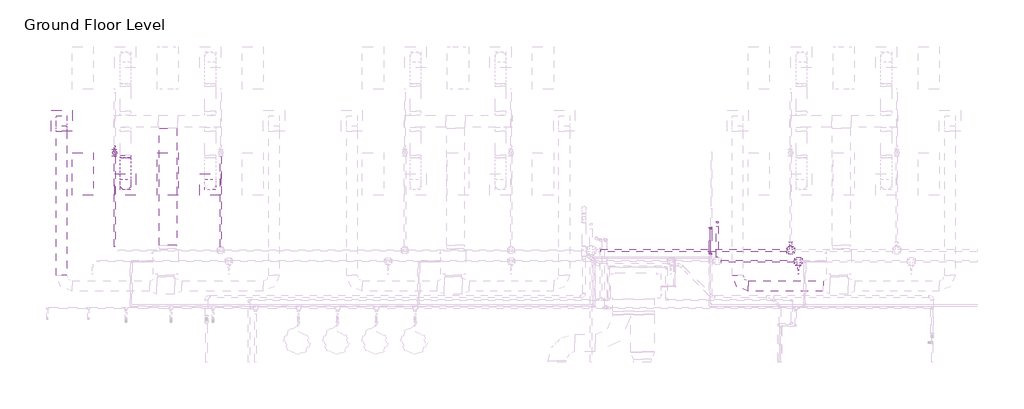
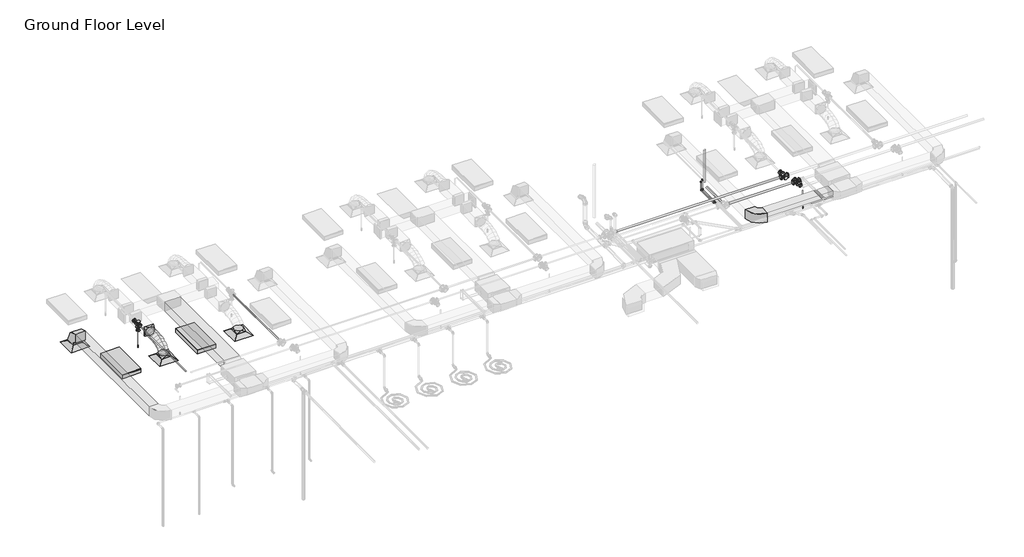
# One storey, part 54 of 74: 14 pipe fittings, 14 pipe segments, 5 duct fittings, 5 duct segments, 3 air terminals, 2 fire suppression terminals, 2 light fixtures.
"""IFC4 building model written with IfcOpenShell, lengths in millimetres."""

from ifc_helpers import new_model, si_unit, point, frame, frame_2d, origin, place, context, project, spatial, polyline, circle_curve, ellipse_curve, trimmed, segment, composite_curve, outline, extrude, transform, mapped, element, save
from ifc_brep_helpers import plane_surface, cylinder_surface, advanced_brep
from components import m_return_diffuser_600_x_600_face_300_x_300_connection_ff221211, m_rectangular_elbow_radius_1_w_618da153, m_rectangular_to_round_transition_angle_45_degree_641efff0, m_sprinkler_dry_pendent_hosted_15_mm_dry_pendent_9bda8e11, m_sprinkler_pendent_15_mm_pendent_06fcbd8e, m_troffer_light_parabolic_rectangular1_0600x1200mm_4_lamp_86473d4a, m_elbow_generic_standard_738589b0, m_elbow_generic_standard_463efa77, m_reducer_flanged_cs_class_150_standard_d42b2106, m_reducer_flanged_cs_class_150_standard_a7631c35, m_reducer_flanged_cs_class_150_standard_55262df0, m_tee_round_base_flanged_cs_class_150_standard_dd767e04, m_tee_round_base_flanged_cs_class_150_standard_7e5987a1

model = new_model("IFC4")

# Units and contexts
model_context = context("Model", 3, world=origin())
ifc_project = project(units=[si_unit("LENGTHUNIT", "METRE", prefix="MILLI")], contexts=[model_context])

# Site, building, storey
site = spatial("IfcSite", under=ifc_project)
building = spatial("IfcBuilding", under=site)
storey = spatial("IfcBuildingStorey", under=building, Name="Ground Floor Level", Elevation=900.0)

# Air terminals
placement = place(None, origin())
m_return_diffuser_600_x_600_face_300_x_300_connection_shape = m_return_diffuser_600_x_600_face_300_x_300_connection_ff221211(model_context)
element("IfcAirTerminal", 1, ObjectType="M_Return Diffuser : 600 x 600 Face 300 x 300 Connection", at=placement, inside=storey, context=model_context, shape_type="MappedRepresentation", body=[
    mapped(m_return_diffuser_600_x_600_face_300_x_300_connection_shape, transform((-20937.2327605, 18735.2153534, 3650.0), x_axis=(1.0, 0.0, 0.0), y_axis=(0.0, 1.0, 0.0), z_axis=(0.0, 0.0, 1.0))),
])
element("IfcAirTerminal", 2, ObjectType="M_Supply Diffuser : 600 x 600 Face 300 x 300 Connection", at=placement, inside=storey, context=model_context, shape_type="MappedRepresentation", body=[
    mapped(m_return_diffuser_600_x_600_face_300_x_300_connection_shape, transform((-19137.2327605, 16935.2153534, 3650.0), x_axis=(1.0, 0.0, 0.0), y_axis=(0.0, 1.0, 0.0), z_axis=(0.0, 0.0, 1.0))),
])
element("IfcAirTerminal", 3, ObjectType="M_Supply Diffuser : 600 x 600 Face 300 x 300 Connection", at=placement, inside=storey, context=model_context, shape_type="MappedRepresentation", body=[
    mapped(m_return_diffuser_600_x_600_face_300_x_300_connection_shape, transform((-16737.2327605, 16935.2153534, 3650.0), x_axis=(1.0, 0.0, 0.0), y_axis=(0.0, 1.0, 0.0), z_axis=(0.0, 0.0, 1.0))),
])

# Duct fittings
m_rectangular_elbow_radius_1_w_shape = m_rectangular_elbow_radius_1_w_618da153(model_context)
element("IfcDuctFitting", 4, ObjectType="M_Rectangular Elbow - Radius : 1 W", at=placement, inside=storey, context=model_context, shape_type="MappedRepresentation", body=[
    mapped(m_rectangular_elbow_radius_1_w_shape, transform((-20937.2327605, 18735.2153534, 4075.2881511), x_axis=(0.0, 0.0, 1.0), y_axis=(0.0, -1.0, 0.0), z_axis=(1.0, 0.0, 0.0))),
])
element("IfcDuctFitting", 5, ObjectType="M_Rectangular Elbow - Radius : 1 W", at=placement, inside=storey, context=model_context, shape_type="MappedRepresentation", body=[
    mapped(m_rectangular_elbow_radius_1_w_shape, transform((-1837.2327605, 14069.8153534, 4075.2872564), x_axis=(0.0, -1.0, 0.0), y_axis=(1.0, 0.0, 0.0), z_axis=(0.0, 0.0, 1.0))),
])
m_rectangular_to_round_transition_angle_45_degree_shape = m_rectangular_to_round_transition_angle_45_degree_641efff0(model_context)
element("IfcDuctFitting", 6, ObjectType="M_Rectangular to Round Transition - Angle : 45 Degree", at=placement, inside=storey, context=model_context, shape_type="MappedRepresentation", body=[
    mapped(m_rectangular_to_round_transition_angle_45_degree_shape, transform((-16737.2327605, 16935.2153534, 3751.6), x_axis=(0.0, 0.0, 1.0), y_axis=(-1.0, 0.0, 0.0), z_axis=(0.0, -1.0, 0.0))),
])
element("IfcDuctFitting", 7, ObjectType="M_Rectangular to Round Transition - Angle : 45 Degree", at=placement, inside=storey, context=model_context, shape_type="MappedRepresentation", body=[
    mapped(m_rectangular_to_round_transition_angle_45_degree_shape, transform((-19137.2327605, 16935.2153534, 3751.6), x_axis=(0.0, 0.0, 1.0), y_axis=(-1.0, 0.0, 0.0), z_axis=(0.0, -1.0, 0.0))),
])
element("IfcDuctFitting", 8, ObjectType="M_Rectangular to Round Transition - Angle : 45 Degree", at=placement, inside=storey, context=model_context, shape_type="MappedRepresentation", body=[
    mapped(m_rectangular_to_round_transition_angle_45_degree_shape, transform((-19137.2327605, 17762.5518775, 4099.9994072), x_axis=(0.0, -1.0, 0.0), y_axis=(1.0, 0.0, 0.0), z_axis=(0.0, 0.0, 1.0))),
])

# Duct segments
element("IfcDuctSegment", 9, ObjectType="Flex - Round", at=placement, inside=storey, context=model_context, shape_type="AdvancedBrep", body=[
    advanced_brep(
    [(-18987.2327605, 16935.2153534, 3826.6), (-19137.2327605, 16785.2153534, 3826.6), (-19287.2327605, 16935.2153534, 3826.6), (-19137.2327605, 17085.2153534, 3826.6), (-18987.2327605, 16935.2153534, 3857.9377363), (-19137.2327605, 16785.2153534, 3883.580989), (-19287.2327605, 16935.2153534, 3857.9377363), (-19137.2327605, 17085.2153534, 3832.2944836), (-18987.2327605, 16952.2313024, 3906.2505836), (-19137.2327605, 16818.4933608, 3978.0661859), (-19287.2327605, 16952.2313024, 3906.2505836), (-19137.2327605, 17085.969244, 3834.4349814), (-18987.2327605, 16999.4152275, 3968.711286), (-19137.2327605, 16895.2094297, 4079.6206779), (-19287.2327605, 16999.4152275, 3968.711286), (-19137.2327605, 17103.6210253, 3857.8018941), (-18987.2327605, 17070.9712459, 4016.0699627), (-19137.2327605, 17002.0373501, 4150.3237308), (-19287.2327605, 17070.9712459, 4016.0699627), (-19137.2327605, 17139.9051416, 3881.8161947), (-18987.2327605, 17161.1034747, 4050.4144697), (-19137.2327605, 17117.5428863, 4194.3366298), (-19287.2327605, 17161.1034747, 4050.4144697), (-19137.2327605, 17204.6640631, 3906.4923095), (-18987.2327605, 17264.0160312, 4073.8326625), (-19137.2327605, 17237.4552729, 4221.6232067), (-19287.2327605, 17264.0160312, 4073.8326625), (-19137.2327605, 17290.5767896, 3926.0421182), (-18987.2327605, 17373.9130326, 4088.4123969), (-19137.2327605, 17358.7622742, 4237.7166746), (-19287.2327605, 17373.9130326, 4088.4123969), (-19137.2327605, 17389.0637909, 3939.1081192), (-18987.2327605, 17484.9985959, 4096.2415287), (-19137.2327605, 17477.4933798, 4246.0846519), (-19287.2327605, 17484.9985959, 4096.2415287), (-19137.2327605, 17492.5038121, 3946.3984054), (-18987.2327605, 17591.4768385, 4099.4079135), (-19137.2327605, 17588.7854112, 4249.3941863), (-19287.2327605, 17591.4768385, 4099.4079135), (-19137.2327605, 17594.1682658, 3949.4216408), (-18987.2327605, 17687.5518775, 4099.9994072), (-19137.2327605, 17688.475347, 3950.0022499), (-19287.2327605, 17687.5518775, 4099.9994072), (-19137.2327605, 17686.6284079, 4249.9965645)],
    [
        (0, 1, circle_curve(frame((-19137.2327605, 16935.2153534, 3826.6), z_axis=(0.0, 0.0, -1.0), x_axis=(1.0, 0.0, 0.0)), 150.0)),
        (1, 2, circle_curve(frame((-19137.2327605, 16935.2153534, 3826.6), z_axis=(0.0, 0.0, -1.0), x_axis=(1.0, 0.0, 0.0)), 150.0)),
        (2, 3, circle_curve(frame((-19137.2327605, 16935.2153534, 3826.6), z_axis=(0.0, 0.0, -1.0), x_axis=(1.0, 0.0, 0.0)), 150.0)),
        (3, 0, circle_curve(frame((-19137.2327605, 16935.2153534, 3826.6), z_axis=(0.0, 0.0, -1.0), x_axis=(1.0, 0.0, 0.0)), 150.0)),
        (0, 4),
        (4, 5, ellipse_curve(frame((-19137.2327605, 16935.2153534, 3857.9377363), z_axis=(0.0, -0.1685103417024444, -0.9856998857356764), x_axis=(0.0, 0.9856998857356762, -0.1685103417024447)), 152.1761361, 150.0)),
        (5, 1),
        (5, 6, ellipse_curve(frame((-19137.2327605, 16935.2153534, 3857.9377363), z_axis=(0.0, -0.1685103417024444, -0.9856998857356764), x_axis=(0.0, 0.9856998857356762, -0.1685103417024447)), 152.1761361, 150.0)),
        (6, 2),
        (6, 7, ellipse_curve(frame((-19137.2327605, 16935.2153534, 3857.9377363), z_axis=(0.0, -0.1685103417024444, -0.9856998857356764), x_axis=(0.0, 0.9856998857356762, -0.1685103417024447)), 152.1761361, 150.0)),
        (7, 3),
        (7, 4, ellipse_curve(frame((-19137.2327605, 16935.2153534, 3857.9377363), z_axis=(0.0, -0.1685103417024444, -0.9856998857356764), x_axis=(0.0, 0.9856998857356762, -0.1685103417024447)), 152.1761361, 150.0)),
        (4, 8),
        (8, 9, ellipse_curve(frame((-19137.2327605, 16952.2313024, 3906.2505836), z_axis=(0.0, -0.4730927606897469, -0.8810126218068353), x_axis=(0.0, 0.881012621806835, -0.4730927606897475)), 151.8002561, 150.0)),
        (9, 5),
        (9, 10, ellipse_curve(frame((-19137.2327605, 16952.2313024, 3906.2505836), z_axis=(0.0, -0.4730927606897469, -0.8810126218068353), x_axis=(0.0, 0.881012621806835, -0.4730927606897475)), 151.8002561, 150.0)),
        (10, 6),
        (10, 11, ellipse_curve(frame((-19137.2327605, 16952.2313024, 3906.2505836), z_axis=(0.0, -0.4730927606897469, -0.8810126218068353), x_axis=(0.0, 0.881012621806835, -0.4730927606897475)), 151.8002561, 150.0)),
        (11, 7),
        (11, 8, ellipse_curve(frame((-19137.2327605, 16952.2313024, 3906.2505836), z_axis=(0.0, -0.4730927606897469, -0.8810126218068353), x_axis=(0.0, 0.881012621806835, -0.4730927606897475)), 151.8002561, 150.0)),
        (8, 12),
        (12, 13, ellipse_curve(frame((-19137.2327605, 16999.4152275, 3968.711286), z_axis=(0.0, -0.7287884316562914, -0.6847389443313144), x_axis=(0.0, 0.6847389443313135, -0.7287884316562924)), 152.1832498, 150.0)),
        (13, 9),
        (13, 14, ellipse_curve(frame((-19137.2327605, 16999.4152275, 3968.711286), z_axis=(0.0, -0.7287884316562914, -0.6847389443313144), x_axis=(0.0, 0.6847389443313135, -0.7287884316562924)), 152.1832498, 150.0)),
        (14, 10),
        (14, 15, ellipse_curve(frame((-19137.2327605, 16999.4152275, 3968.711286), z_axis=(0.0, -0.7287884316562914, -0.6847389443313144), x_axis=(0.0, 0.6847389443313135, -0.7287884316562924)), 152.1832498, 150.0)),
        (15, 11),
        (15, 12, ellipse_curve(frame((-19137.2327605, 16999.4152275, 3968.711286), z_axis=(0.0, -0.7287884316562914, -0.6847389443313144), x_axis=(0.0, 0.6847389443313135, -0.7287884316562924)), 152.1832498, 150.0)),
        (12, 16),
        (16, 17, ellipse_curve(frame((-19137.2327605, 17070.9712459, 4016.0699627), z_axis=(0.0, -0.8895864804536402, -0.45676678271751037), x_axis=(0.0, 0.45676678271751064, -0.88958648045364)), 150.9170508, 150.0)),
        (17, 13),
        (17, 18, ellipse_curve(frame((-19137.2327605, 17070.9712459, 4016.0699627), z_axis=(0.0, -0.8895864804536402, -0.45676678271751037), x_axis=(0.0, 0.45676678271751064, -0.88958648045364)), 150.9170508, 150.0)),
        (18, 14),
        (18, 19, ellipse_curve(frame((-19137.2327605, 17070.9712459, 4016.0699627), z_axis=(0.0, -0.8895864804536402, -0.45676678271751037), x_axis=(0.0, 0.45676678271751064, -0.88958648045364)), 150.9170508, 150.0)),
        (19, 15),
        (19, 16, ellipse_curve(frame((-19137.2327605, 17070.9712459, 4016.0699627), z_axis=(0.0, -0.8895864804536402, -0.45676678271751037), x_axis=(0.0, 0.45676678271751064, -0.88958648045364)), 150.9170508, 150.0)),
        (16, 20),
        (20, 21, ellipse_curve(frame((-19137.2327605, 17161.1034747, 4050.4144697), z_axis=(0.0, -0.9571206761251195, -0.2896895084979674), x_axis=(0.0, 0.28968950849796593, -0.9571206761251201)), 150.3699207, 150.0)),
        (21, 17),
        (21, 22, ellipse_curve(frame((-19137.2327605, 17161.1034747, 4050.4144697), z_axis=(0.0, -0.9571206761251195, -0.2896895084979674), x_axis=(0.0, 0.28968950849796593, -0.9571206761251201)), 150.3699207, 150.0)),
        (22, 18),
        (22, 23, ellipse_curve(frame((-19137.2327605, 17161.1034747, 4050.4144697), z_axis=(0.0, -0.9571206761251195, -0.2896895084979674), x_axis=(0.0, 0.28968950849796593, -0.9571206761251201)), 150.3699207, 150.0)),
        (23, 19),
        (23, 20, ellipse_curve(frame((-19137.2327605, 17161.1034747, 4050.4144697), z_axis=(0.0, -0.9571206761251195, -0.2896895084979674), x_axis=(0.0, 0.28968950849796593, -0.9571206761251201)), 150.3699207, 150.0)),
        (20, 24),
        (24, 25, ellipse_curve(frame((-19137.2327605, 17264.0160312, 4073.8326625), z_axis=(0.0, -0.984231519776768, -0.17688503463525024), x_axis=(0.0, 0.17688503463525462, -0.984231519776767)), 150.1583126, 150.0)),
        (25, 21),
        (25, 26, ellipse_curve(frame((-19137.2327605, 17264.0160312, 4073.8326625), z_axis=(0.0, -0.984231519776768, -0.17688503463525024), x_axis=(0.0, 0.17688503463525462, -0.984231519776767)), 150.1583126, 150.0)),
        (26, 22),
        (26, 27, ellipse_curve(frame((-19137.2327605, 17264.0160312, 4073.8326625), z_axis=(0.0, -0.984231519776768, -0.17688503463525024), x_axis=(0.0, 0.17688503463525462, -0.984231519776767)), 150.1583126, 150.0)),
        (27, 23),
        (27, 24, ellipse_curve(frame((-19137.2327605, 17264.0160312, 4073.8326625), z_axis=(0.0, -0.984231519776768, -0.17688503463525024), x_axis=(0.0, 0.17688503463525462, -0.984231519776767)), 150.1583126, 150.0)),
        (24, 28),
        (28, 29, ellipse_curve(frame((-19137.2327605, 17373.9130326, 4088.4123969), z_axis=(0.0, -0.9948907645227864, -0.1009572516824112), x_axis=(0.0, 0.10095725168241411, -0.9948907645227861)), 150.0710259, 150.0)),
        (29, 25),
        (29, 30, ellipse_curve(frame((-19137.2327605, 17373.9130326, 4088.4123969), z_axis=(0.0, -0.9948907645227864, -0.1009572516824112), x_axis=(0.0, 0.10095725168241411, -0.9948907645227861)), 150.0710259, 150.0)),
        (30, 26),
        (30, 31, ellipse_curve(frame((-19137.2327605, 17373.9130326, 4088.4123969), z_axis=(0.0, -0.9948907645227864, -0.1009572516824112), x_axis=(0.0, 0.10095725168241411, -0.9948907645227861)), 150.0710259, 150.0)),
        (31, 27),
        (31, 28, ellipse_curve(frame((-19137.2327605, 17373.9130326, 4088.4123969), z_axis=(0.0, -0.9948907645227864, -0.1009572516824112), x_axis=(0.0, 0.10095725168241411, -0.9948907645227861)), 150.0710259, 150.0)),
        (28, 32),
        (32, 33, ellipse_curve(frame((-19137.2327605, 17484.9985959, 4096.2415287), z_axis=(0.0, -0.9987479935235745, -0.05002444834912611), x_axis=(0.0, 0.050024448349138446, -0.9987479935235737)), 150.030963, 150.0)),
        (33, 29),
        (33, 34, ellipse_curve(frame((-19137.2327605, 17484.9985959, 4096.2415287), z_axis=(0.0, -0.9987479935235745, -0.05002444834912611), x_axis=(0.0, 0.050024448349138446, -0.9987479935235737)), 150.030963, 150.0)),
        (34, 30),
        (34, 35, ellipse_curve(frame((-19137.2327605, 17484.9985959, 4096.2415287), z_axis=(0.0, -0.9987479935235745, -0.05002444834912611), x_axis=(0.0, 0.050024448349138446, -0.9987479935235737)), 150.030963, 150.0)),
        (35, 31),
        (35, 32, ellipse_curve(frame((-19137.2327605, 17484.9985959, 4096.2415287), z_axis=(0.0, -0.9987479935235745, -0.05002444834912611), x_axis=(0.0, 0.050024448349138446, -0.9987479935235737)), 150.030963, 150.0)),
        (32, 36),
        (36, 37, ellipse_curve(frame((-19137.2327605, 17591.4768385, 4099.4079135), z_axis=(0.0, -0.9998390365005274, -0.017941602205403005), x_axis=(0.0, 0.017941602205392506, -0.9998390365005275)), 150.0104189, 150.0)),
        (37, 33),
        (37, 38, ellipse_curve(frame((-19137.2327605, 17591.4768385, 4099.4079135), z_axis=(0.0, -0.9998390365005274, -0.017941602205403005), x_axis=(0.0, 0.017941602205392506, -0.9998390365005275)), 150.0104189, 150.0)),
        (38, 34),
        (38, 39, ellipse_curve(frame((-19137.2327605, 17591.4768385, 4099.4079135), z_axis=(0.0, -0.9998390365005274, -0.017941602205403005), x_axis=(0.0, 0.017941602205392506, -0.9998390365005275)), 150.0104189, 150.0)),
        (39, 35),
        (39, 36, ellipse_curve(frame((-19137.2327605, 17591.4768385, 4099.4079135), z_axis=(0.0, -0.9998390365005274, -0.017941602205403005), x_axis=(0.0, 0.017941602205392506, -0.9998390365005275)), 150.0104189, 150.0)),
        (40, 41, circle_curve(frame((-19137.2327605, 17687.5518775, 4099.9994072), z_axis=(0.0, 0.9999810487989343, 0.006156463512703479), x_axis=(1.0, 0.0, 0.0)), 150.0)),
        (41, 42, circle_curve(frame((-19137.2327605, 17687.5518775, 4099.9994072), z_axis=(0.0, 0.9999810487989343, 0.006156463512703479), x_axis=(1.0, 0.0, 0.0)), 150.0)),
        (42, 43, circle_curve(frame((-19137.2327605, 17687.5518775, 4099.9994072), z_axis=(0.0, 0.9999810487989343, 0.006156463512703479), x_axis=(1.0, 0.0, 0.0)), 150.0)),
        (43, 40, circle_curve(frame((-19137.2327605, 17687.5518775, 4099.9994072), z_axis=(0.0, 0.9999810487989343, 0.006156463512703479), x_axis=(1.0, 0.0, 0.0)), 150.0)),
        (36, 40),
        (43, 37),
        (42, 38),
        (41, 39),
    ],
    [
        plane_surface(frame((-19137.2327605, 16785.2153534, 3826.6), z_axis=(0.0, 0.0, -1.0), x_axis=(1.0, 0.0, 0.0))),
        cylinder_surface(frame((-19137.2327605, 16935.2153534, 3826.6), z_axis=(0.0, 0.0, -1.0), x_axis=(1.0, 0.0, 0.0)), 150.0),
        cylinder_surface(frame((-19137.2327605, 16935.2153534, 3857.9377363), z_axis=(0.0, -0.33220124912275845, -0.9432085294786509), x_axis=(1.0, 0.0, 0.0)), 150.0),
        cylinder_surface(frame((-19137.2327605, 16952.2313024, 3906.2505836), z_axis=(0.0, -0.6027631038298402, -0.7979201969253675), x_axis=(1.0, 0.0, 0.0)), 150.0),
        cylinder_surface(frame((-19137.2327605, 16999.4152275, 3968.711286), z_axis=(0.0, -0.833903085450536, -0.5519109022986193), x_axis=(1.0, 0.0, 0.0)), 150.0),
        cylinder_surface(frame((-19137.2327605, 17070.9712459, 4016.0699627), z_axis=(0.0, -0.9344586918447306, -0.3560715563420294), x_axis=(1.0, 0.0, 0.0)), 150.0),
        cylinder_surface(frame((-19137.2327605, 17161.1034747, 4050.4144697), z_axis=(0.0, -0.9750734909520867, -0.22188214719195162), x_axis=(1.0, 0.0, 0.0)), 150.0),
        cylinder_surface(frame((-19137.2327605, 17264.0160312, 4073.8326625), z_axis=(0.0, -0.9913141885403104, -0.13151494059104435), x_axis=(1.0, 0.0, 0.0)), 150.0),
        cylinder_surface(frame((-19137.2327605, 17373.9130326, 4088.4123969), z_axis=(0.0, -0.9975256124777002, -0.07030400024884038), x_axis=(1.0, 0.0, 0.0)), 150.0),
        cylinder_surface(frame((-19137.2327605, 17484.9985959, 4096.2415287), z_axis=(0.0, -0.9995581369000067, -0.029724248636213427), x_axis=(1.0, 0.0, 0.0)), 150.0),
        plane_surface(frame((-19137.2327605, 17686.6284079, 4249.9965645), z_axis=(0.0, 0.9999810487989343, 0.006156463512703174), x_axis=(1.0, 0.0, 0.0))),
        cylinder_surface(frame((-19137.2327605, 17591.4768385, 4099.4079135), z_axis=(0.0, -0.9999810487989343, -0.006156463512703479), x_axis=(1.0, 0.0, 0.0)), 150.0),
    ],
    [
        (0, [[1, 2, 3, 4]]),
        (1, [[-1, 5, 6, 7]]),
        (1, [[-2, -7, 8, 9]]),
        (1, [[-3, -9, 10, 11]]),
        (1, [[-4, -11, 12, -5]]),
        (2, [[-6, 13, 14, 15]]),
        (2, [[-8, -15, 16, 17]]),
        (2, [[-10, -17, 18, 19]]),
        (2, [[-12, -19, 20, -13]]),
        (3, [[-14, 21, 22, 23]]),
        (3, [[-16, -23, 24, 25]]),
        (3, [[-18, -25, 26, 27]]),
        (3, [[-20, -27, 28, -21]]),
        (4, [[-22, 29, 30, 31]]),
        (4, [[-24, -31, 32, 33]]),
        (4, [[-26, -33, 34, 35]]),
        (4, [[-28, -35, 36, -29]]),
        (5, [[-30, 37, 38, 39]]),
        (5, [[-32, -39, 40, 41]]),
        (5, [[-34, -41, 42, 43]]),
        (5, [[-36, -43, 44, -37]]),
        (6, [[-38, 45, 46, 47]]),
        (6, [[-40, -47, 48, 49]]),
        (6, [[-42, -49, 50, 51]]),
        (6, [[-44, -51, 52, -45]]),
        (7, [[-46, 53, 54, 55]]),
        (7, [[-48, -55, 56, 57]]),
        (7, [[-50, -57, 58, 59]]),
        (7, [[-52, -59, 60, -53]]),
        (8, [[-54, 61, 62, 63]]),
        (8, [[-56, -63, 64, 65]]),
        (8, [[-58, -65, 66, 67]]),
        (8, [[-60, -67, 68, -61]]),
        (9, [[-62, 69, 70, 71]]),
        (9, [[-64, -71, 72, 73]]),
        (9, [[-66, -73, 74, 75]]),
        (9, [[-68, -75, 76, -69]]),
        (10, [[77, 78, 79, 80]]),
        (11, [[-70, 81, -80, 82]]),
        (11, [[-72, -82, -79, 83]]),
        (11, [[-74, -83, -78, 84]]),
        (11, [[-76, -84, -77, -81]]),
    ],
),
])
element("IfcDuctSegment", 10, ObjectType="Radius Elbows / Taps", at=placement, inside=storey, context=model_context, shape_type="SweptSolid", body=[
    extrude(outline(polyline([(-17683.7327605, 15224.0945822), (-18183.7327605, 15224.0945822), (-18183.7327605, 18524.6783949), (-17683.7327605, 18524.6783949), (-17683.7327605, 15224.0945822)])), frame((0.0, 0.0, 3950.0008948), z_axis=(0.0, 0.0, 1.0), x_axis=(1.0, 0.0, 0.0)), (0.0, 0.0, 1.0), 300.0),
])
element("IfcDuctSegment", 11, ObjectType="Radius Elbows / Taps", at=placement, inside=storey, context=model_context, shape_type="SweptSolid", body=[
    extrude(outline(polyline([(-20787.2327605, 14369.8153534), (-21087.2327605, 14369.8153534), (-21087.2327605, 18435.2153534), (-20787.2327605, 18435.2153534), (-20787.2327605, 14369.8153534)])), frame((0.0, 0.0, 3925.2881511), z_axis=(0.0, 0.0, 1.0), x_axis=(1.0, 0.0, 0.0)), (0.0, 0.0, 1.0), 300.0),
])
element("IfcDuctSegment", 12, ObjectType="Radius Elbows / Taps", at=placement, inside=storey, context=model_context, shape_type="SweptSolid", body=[
    extrude(outline(polyline([(-20787.2327605, 18585.2153534), (-21087.2327605, 18585.2153534), (-21087.2327605, 18885.2153534), (-20787.2327605, 18885.2153534), (-20787.2327605, 18585.2153534)])), frame((0.0, 0.0, 3751.6), z_axis=(0.0, 0.0, 1.0), x_axis=(1.0, 0.0, 0.0)), (0.0, 0.0, 1.0), 23.6881511),
])
element("IfcDuctSegment", 13, ObjectType="Radius Elbows / Taps", at=placement, inside=storey, context=model_context, shape_type="SweptSolid", body=[
    extrude(outline(polyline([(-1537.2327605, 13919.8153534), (-1537.2327605, 14219.8153534), (576.4293293, 14219.8153534), (576.4293293, 13919.8153534), (-1537.2327605, 13919.8153534)])), frame((0.0, 0.0, 3925.2872564), z_axis=(0.0, 0.0, 1.0), x_axis=(1.0, 0.0, 0.0)), (0.0, 0.0, 1.0), 300.0),
])

# Fire suppression terminals
m_sprinkler_dry_pendent_hosted_15_mm_dry_pendent_shape = m_sprinkler_dry_pendent_hosted_15_mm_dry_pendent_9bda8e11(model_context)
element("IfcFireSuppressionTerminal", 14, ObjectType="M_Sprinkler - Dry - Pendent - Hosted : 15 mm Dry Pendent", at=placement, inside=storey, context=model_context, shape_type="MappedRepresentation", body=[
    mapped(m_sprinkler_dry_pendent_hosted_15_mm_dry_pendent_shape, transform((-19437.2327605, 17835.2153534, 3650.0), x_axis=(1.0, 0.0, 0.0), y_axis=(0.0, -1.0, 0.0), z_axis=(0.0, 0.0, -1.0))),
])
m_sprinkler_pendent_15_mm_pendent_shape = m_sprinkler_pendent_15_mm_pendent_06fcbd8e(model_context)
element("IfcFireSuppressionTerminal", 15, ObjectType="M_Sprinkler - Pendent : 15 mm Pendent", at=placement, inside=storey, context=model_context, shape_type="MappedRepresentation", body=[
    mapped(m_sprinkler_pendent_15_mm_pendent_shape, transform((-118.3252882, 14412.7243649, 3650.0), x_axis=(1.0, 0.0, 0.0), y_axis=(0.0, 1.0, 0.0), z_axis=(0.0, 0.0, 1.0))),
])

# Light fixtures
m_troffer_light_parabolic_rectangular1_0600x1200mm_4_lamp_shape = m_troffer_light_parabolic_rectangular1_0600x1200mm_4_lamp_86473d4a(model_context)
element("IfcLightFixture", 16, ObjectType="M_Troffer Light - Parabolic Rectangular1 : 0600x1200mm(4 Lamp) - 277V 2", at=placement, inside=storey, context=model_context, shape_type="MappedRepresentation", body=[
    mapped(m_troffer_light_parabolic_rectangular1_0600x1200mm_4_lamp_shape, transform((-20396.6986926, 17253.918855, 3650.0), x_axis=(0.0, 1.0, 0.0), y_axis=(-1.0, 0.0, 0.0), z_axis=(0.0, 0.0, 1.0))),
])
element("IfcLightFixture", 17, ObjectType="M_Troffer Light - Parabolic Rectangular1 : 0600x1200mm(4 Lamp) - 277V 2", at=placement, inside=storey, context=model_context, shape_type="MappedRepresentation", body=[
    mapped(m_troffer_light_parabolic_rectangular1_0600x1200mm_4_lamp_shape, transform((-17996.6986926, 17253.918855, 3650.0), x_axis=(0.0, 1.0, 0.0), y_axis=(-1.0, 0.0, 0.0), z_axis=(0.0, 0.0, 1.0))),
])

# Pipe fittings
m_elbow_generic_standard_shape = m_elbow_generic_standard_738589b0(model_context)
element("IfcPipeFitting", 18, ObjectType="M_Elbow - Generic : Standard", at=placement, inside=storey, context=model_context, shape_type="MappedRepresentation", body=[
    mapped(m_elbow_generic_standard_shape, transform((-2632.5317947, 15715.5935138, 4581.0887163), x_axis=(0.0, 0.0, 1.0), y_axis=(0.0, 1.0, 0.0), z_axis=(-1.0, 0.0, 0.0))),
])
element("IfcPipeFitting", 19, ObjectType="M_Elbow - Generic : Standard", at=placement, inside=storey, context=model_context, shape_type="MappedRepresentation", body=[
    mapped(m_elbow_generic_standard_shape, transform((-2632.5317947, 14990.7777393, 4365.0), x_axis=(0.0, 1.0, 0.0), y_axis=(0.0, 0.0, -1.0), z_axis=(-1.0, 0.0, 0.0))),
])
element("IfcPipeFitting", 20, ObjectType="M_Elbow - Generic : Standard", at=placement, inside=storey, context=model_context, shape_type="MappedRepresentation", body=[
    mapped(m_elbow_generic_standard_shape, transform((-2632.5317947, 15715.5935138, 4300.0), x_axis=(0.0, 0.0, -1.0), y_axis=(0.0, -1.0, 0.0), z_axis=(-1.0, 0.0, 0.0))),
])
element("IfcPipeFitting", 21, ObjectType="M_Elbow - Generic : Standard", at=placement, inside=storey, context=model_context, shape_type="MappedRepresentation", body=[
    mapped(m_elbow_generic_standard_shape, transform((-2632.5317947, 14990.7777393, 4300.0), x_axis=(0.0, 0.0, -1.0), y_axis=(0.0, 1.0, 0.0), z_axis=(1.0, 0.0, 0.0))),
])
m_elbow_generic_standard_2_shape = m_elbow_generic_standard_463efa77(model_context)
element("IfcPipeFitting", 22, ObjectType="M_Elbow - Generic : Standard", at=placement, inside=storey, context=model_context, shape_type="MappedRepresentation", body=[
    mapped(m_elbow_generic_standard_2_shape, transform((-2579.6952605, 15716.2153534, 4634.3568617), x_axis=(0.0, 0.0, 1.0), y_axis=(0.0, 1.0, 0.0), z_axis=(-1.0, 0.0, 0.0))),
])
element("IfcPipeFitting", 23, ObjectType="M_Elbow - Generic : Standard", at=placement, inside=storey, context=model_context, shape_type="MappedRepresentation", body=[
    mapped(m_elbow_generic_standard_2_shape, transform((-2579.6952605, 15716.2153534, 4300.0), x_axis=(0.0, 0.0, -1.0), y_axis=(0.0, -1.0, 0.0), z_axis=(-1.0, 0.0, 0.0))),
])
element("IfcPipeFitting", 24, ObjectType="M_Elbow - Generic : Standard", at=placement, inside=storey, context=model_context, shape_type="MappedRepresentation", body=[
    mapped(m_elbow_generic_standard_2_shape, transform((-2579.6952605, 14974.394156, 4300.0), x_axis=(0.0, 0.0, -1.0), y_axis=(0.0, 1.0, 0.0), z_axis=(1.0, 0.0, 0.0))),
])
m_reducer_flanged_cs_class_150_standard_shape = m_reducer_flanged_cs_class_150_standard_d42b2106(model_context)
element("IfcPipeFitting", 25, ObjectType="M_Reducer - Flanged - CS - Class 150 : Standard", at=placement, inside=storey, context=model_context, shape_type="MappedRepresentation", body=[
    mapped(m_reducer_flanged_cs_class_150_standard_shape, transform((-19437.2327605, 17835.2153534, 4259.2914063), x_axis=(0.0, 0.0, -1.0), y_axis=(-1.0, 0.0, 0.0), z_axis=(0.0, 1.0, 0.0))),
])
element("IfcPipeFitting", 26, ObjectType="M_Reducer - Flanged - CS - Class 150 : Standard", at=placement, inside=storey, context=model_context, shape_type="MappedRepresentation", body=[
    mapped(m_reducer_flanged_cs_class_150_standard_shape, transform((-19437.2327605, 17935.9239471, 4360.0), x_axis=(0.0, 1.0, 0.0), y_axis=(-1.0, 0.0, 0.0), z_axis=(0.0, 0.0, 1.0))),
])
m_reducer_flanged_cs_class_150_standard_2_shape = m_reducer_flanged_cs_class_150_standard_a7631c35(model_context)
element("IfcPipeFitting", 27, ObjectType="M_Reducer - Flanged - CS - Class 150 : Standard", at=placement, inside=storey, context=model_context, shape_type="MappedRepresentation", body=[
    mapped(m_reducer_flanged_cs_class_150_standard_2_shape, transform((-337.2327605, 15187.2009828, 4360.0), x_axis=(0.0, 1.0, 0.0), y_axis=(-1.0, 0.0, 0.0), z_axis=(0.0, 0.0, 1.0))),
])
m_reducer_flanged_cs_class_150_standard_3_shape = m_reducer_flanged_cs_class_150_standard_55262df0(model_context)
element("IfcPipeFitting", 28, ObjectType="M_Reducer - Flanged - CS - Class 150 : Standard", at=placement, inside=storey, context=model_context, shape_type="MappedRepresentation", body=[
    mapped(m_reducer_flanged_cs_class_150_standard_3_shape, transform((-118.3252882, 14659.4681847, 4291.0943441), x_axis=(0.0, -1.0, 0.0), y_axis=(1.0, 0.0, 0.0), z_axis=(0.0, 0.0, 1.0))),
])
m_tee_round_base_flanged_cs_class_150_standard_shape = m_tee_round_base_flanged_cs_class_150_standard_dd767e04(model_context)
element("IfcPipeFitting", 29, ObjectType="M_Tee Round Base - Flanged - CS - Class 150 : Standard", at=placement, inside=storey, context=model_context, shape_type="MappedRepresentation", body=[
    mapped(m_tee_round_base_flanged_cs_class_150_standard_shape, transform((-118.3252882, 14773.4681847, 4291.0943441), x_axis=(-1.0, 0.0, 0.0), y_axis=(0.0, 1.0, 0.0), z_axis=(0.0, 0.0, -1.0))),
])
element("IfcPipeFitting", 30, ObjectType="M_Tee Round Base - Flanged - CS - Class 150 : Standard", at=placement, inside=storey, context=model_context, shape_type="MappedRepresentation", body=[
    mapped(m_tee_round_base_flanged_cs_class_150_standard_shape, transform((-337.2327605, 15073.2009828, 4360.0), x_axis=(-1.0, 0.0, 0.0), y_axis=(0.0, -1.0, 0.0), z_axis=(0.0, 0.0, 1.0))),
])
m_tee_round_base_flanged_cs_class_150_standard_2_shape = m_tee_round_base_flanged_cs_class_150_standard_7e5987a1(model_context)
element("IfcPipeFitting", 31, ObjectType="M_Tee Round Base - Flanged - CS - Class 150 : Standard", at=placement, inside=storey, context=model_context, shape_type="MappedRepresentation", body=[
    mapped(m_tee_round_base_flanged_cs_class_150_standard_2_shape, transform((-19437.2327605, 17835.2153534, 4360.0), x_axis=(0.0, 1.0, 0.0), y_axis=(0.0, 0.0, 1.0), z_axis=(1.0, 0.0, 0.0))),
])

# Pipe segments
element("IfcPipeSegment", 32, ObjectType="Copper", at=placement, inside=storey, context=model_context, shape_type="SweptSolid", body=[
    extrude(outline(composite_curve([segment(trimmed(circle_curve(frame_2d((4300.0, -2579.6952605)), 14.5), [point((4300.0, -2594.1952605))], [point((4285.5, -2579.6952605))], False, "CARTESIAN"), True, "CONTINUOUS"), segment(trimmed(circle_curve(frame_2d((4300.0, -2579.6952605)), 14.5), [point((4285.5, -2579.6952605))], [point((4300.0, -2565.1952605))], False, "CARTESIAN"), True, "CONTINUOUS"), segment(trimmed(circle_curve(frame_2d((4300.0, -2579.6952605)), 14.5), [point((4300.0, -2565.1952605))], [point((4314.5, -2579.6952605))], False, "CARTESIAN"), True, "CONTINUOUS"), segment(trimmed(circle_curve(frame_2d((4300.0, -2579.6952605)), 14.5), [point((4314.5, -2579.6952605))], [point((4300.0, -2594.1952605))], False, "CARTESIAN"), True, "CONTINUOUS")], self_intersect=False)), frame((0.0, 14996.619156, 0.0), z_axis=(0.0, 1.0, 0.0), x_axis=(0.0, 0.0, 1.0)), (0.0, 0.0, 1.0), 697.3711973),
])
element("IfcPipeSegment", 33, ObjectType="Copper", at=placement, inside=storey, context=model_context, shape_type="SweptSolid", body=[
    extrude(outline(composite_curve([segment(trimmed(circle_curve(frame_2d((4300.0, -2632.5317947)), 9.75), [point((4300.0, -2642.2817947))], [point((4290.25, -2632.5317947))], False, "CARTESIAN"), True, "CONTINUOUS"), segment(trimmed(circle_curve(frame_2d((4300.0, -2632.5317947)), 9.75), [point((4290.25, -2632.5317947))], [point((4300.0, -2622.7817947))], False, "CARTESIAN"), True, "CONTINUOUS"), segment(trimmed(circle_curve(frame_2d((4300.0, -2632.5317947)), 9.75), [point((4300.0, -2622.7817947))], [point((4309.75, -2632.5317947))], False, "CARTESIAN"), True, "CONTINUOUS"), segment(trimmed(circle_curve(frame_2d((4300.0, -2632.5317947)), 9.75), [point((4309.75, -2632.5317947))], [point((4300.0, -2642.2817947))], False, "CARTESIAN"), True, "CONTINUOUS")], self_intersect=False)), frame((0.0, 15008.2402393, 0.0), z_axis=(0.0, 1.0, 0.0), x_axis=(0.0, 0.0, 1.0)), (0.0, 0.0, 1.0), 689.8907745),
])
element("IfcPipeSegment", 34, ObjectType="Copper", at=placement, inside=storey, context=model_context, shape_type="SweptSolid", body=[
    extrude(outline(composite_curve([segment(trimmed(circle_curve(frame_2d((-2632.5317947, 15715.5935138)), 9.75), [point((-2642.2817947, 15715.5935138))], [point((-2632.5317947, 15725.3435138))], False, "CARTESIAN"), True, "CONTINUOUS"), segment(trimmed(circle_curve(frame_2d((-2632.5317947, 15715.5935138)), 9.75), [point((-2632.5317947, 15725.3435138))], [point((-2622.7817947, 15715.5935138))], False, "CARTESIAN"), True, "CONTINUOUS"), segment(trimmed(circle_curve(frame_2d((-2632.5317947, 15715.5935138)), 9.75), [point((-2622.7817947, 15715.5935138))], [point((-2632.5317947, 15705.8435138))], False, "CARTESIAN"), True, "CONTINUOUS"), segment(trimmed(circle_curve(frame_2d((-2632.5317947, 15715.5935138)), 9.75), [point((-2632.5317947, 15705.8435138))], [point((-2642.2817947, 15715.5935138))], False, "CARTESIAN"), True, "CONTINUOUS")], self_intersect=False)), frame((0.0, 0.0, 4317.4625), z_axis=(0.0, 0.0, 1.0), x_axis=(1.0, 0.0, 0.0)), (0.0, 0.0, 1.0), 246.1637163),
])
element("IfcPipeSegment", 35, ObjectType="Copper", at=placement, inside=storey, context=model_context, shape_type="SweptSolid", body=[
    extrude(outline(composite_curve([segment(trimmed(circle_curve(frame_2d((-2579.6952605, 15716.2153534)), 14.5), [point((-2594.1952605, 15716.2153534))], [point((-2579.6952605, 15730.7153534))], False, "CARTESIAN"), True, "CONTINUOUS"), segment(trimmed(circle_curve(frame_2d((-2579.6952605, 15716.2153534)), 14.5), [point((-2579.6952605, 15730.7153534))], [point((-2565.1952605, 15716.2153534))], False, "CARTESIAN"), True, "CONTINUOUS"), segment(trimmed(circle_curve(frame_2d((-2579.6952605, 15716.2153534)), 14.5), [point((-2565.1952605, 15716.2153534))], [point((-2579.6952605, 15701.7153534))], False, "CARTESIAN"), True, "CONTINUOUS"), segment(trimmed(circle_curve(frame_2d((-2579.6952605, 15716.2153534)), 14.5), [point((-2579.6952605, 15701.7153534))], [point((-2594.1952605, 15716.2153534))], False, "CARTESIAN"), True, "CONTINUOUS")], self_intersect=False)), frame((0.0, 0.0, 4322.225), z_axis=(0.0, 0.0, 1.0), x_axis=(1.0, 0.0, 0.0)), (0.0, 0.0, 1.0), 289.9068617),
])
element("IfcPipeSegment", 36, ObjectType="Copper", at=placement, inside=storey, context=model_context, shape_type="SweptSolid", body=[
    extrude(outline(composite_curve([segment(trimmed(circle_curve(frame_2d((-2632.5317947, 14990.7777393)), 9.75), [point((-2622.7817947, 14990.7777393))], [point((-2632.5317947, 14981.0277393))], False, "CARTESIAN"), True, "CONTINUOUS"), segment(trimmed(circle_curve(frame_2d((-2632.5317947, 14990.7777393)), 9.75), [point((-2632.5317947, 14981.0277393))], [point((-2642.2817947, 14990.7777393))], False, "CARTESIAN"), True, "CONTINUOUS"), segment(trimmed(circle_curve(frame_2d((-2632.5317947, 14990.7777393)), 9.75), [point((-2642.2817947, 14990.7777393))], [point((-2632.5317947, 15000.5277393))], False, "CARTESIAN"), True, "CONTINUOUS"), segment(trimmed(circle_curve(frame_2d((-2632.5317947, 14990.7777393)), 9.75), [point((-2632.5317947, 15000.5277393))], [point((-2622.7817947, 14990.7777393))], False, "CARTESIAN"), True, "CONTINUOUS")], self_intersect=False)), frame((0.0, 0.0, 4317.4625), z_axis=(0.0, 0.0, 1.0), x_axis=(1.0, 0.0, 0.0)), (0.0, 0.0, 1.0), 30.075),
])
element("IfcPipeSegment", 37, ObjectType="Steel flanged", at=placement, inside=storey, context=model_context, shape_type="SweptSolid", body=[
    extrude(outline(composite_curve([segment(trimmed(circle_curve(frame_2d((-118.3252882, 14412.7243649)), 10.668), [point((-128.9932882, 14412.7243649))], [point((-118.3252882, 14423.3923649))], False, "CARTESIAN"), True, "CONTINUOUS"), segment(trimmed(circle_curve(frame_2d((-118.3252882, 14412.7243649)), 10.668), [point((-118.3252882, 14423.3923649))], [point((-107.6572882, 14412.7243649))], False, "CARTESIAN"), True, "CONTINUOUS"), segment(trimmed(circle_curve(frame_2d((-118.3252882, 14412.7243649)), 10.668), [point((-107.6572882, 14412.7243649))], [point((-118.3252882, 14402.0563649))], False, "CARTESIAN"), True, "CONTINUOUS"), segment(trimmed(circle_curve(frame_2d((-118.3252882, 14412.7243649)), 10.668), [point((-118.3252882, 14402.0563649))], [point((-128.9932882, 14412.7243649))], False, "CARTESIAN"), True, "CONTINUOUS")], self_intersect=False)), frame((0.0, 0.0, 3650.0), z_axis=(0.0, 0.0, 1.0), x_axis=(1.0, 0.0, 0.0)), (0.0, 0.0, 1.0), 548.2668816),
])
element("IfcPipeSegment", 38, ObjectType="Steel flanged", at=placement, inside=storey, context=model_context, shape_type="SweptSolid", body=[
    extrude(outline(composite_curve([segment(trimmed(circle_curve(frame_2d((4291.0943441, -118.3252882)), 10.668), [point((4291.0943441, -107.6572882))], [point((4301.7623441, -118.3252882))], False, "CARTESIAN"), True, "CONTINUOUS"), segment(trimmed(circle_curve(frame_2d((4291.0943441, -118.3252882)), 10.668), [point((4301.7623441, -118.3252882))], [point((4291.0943441, -128.9932882))], False, "CARTESIAN"), True, "CONTINUOUS"), segment(trimmed(circle_curve(frame_2d((4291.0943441, -118.3252882)), 10.668), [point((4291.0943441, -128.9932882))], [point((4280.4263441, -118.3252882))], False, "CARTESIAN"), True, "CONTINUOUS"), segment(trimmed(circle_curve(frame_2d((4291.0943441, -118.3252882)), 10.668), [point((4280.4263441, -118.3252882))], [point((4291.0943441, -107.6572882))], False, "CARTESIAN"), True, "CONTINUOUS")], self_intersect=False)), frame((0.0, 14505.7329586, 0.0), z_axis=(0.0, 1.0, 0.0), x_axis=(0.0, 0.0, 1.0)), (0.0, 0.0, 1.0), 26.7352261),
])
element("IfcPipeSegment", 39, ObjectType="Steel flanged", at=placement, inside=storey, context=model_context, shape_type="SweptSolid", body=[
    extrude(outline(composite_curve([segment(trimmed(circle_curve(frame_2d((14773.4681847, 4291.0943441)), 30.1625), [point((14743.3056847, 4291.0943441))], [point((14773.4681847, 4321.2568441))], False, "CARTESIAN"), True, "CONTINUOUS"), segment(trimmed(circle_curve(frame_2d((14773.4681847, 4291.0943441)), 30.1625), [point((14773.4681847, 4321.2568441))], [point((14803.6306847, 4291.0943441))], False, "CARTESIAN"), True, "CONTINUOUS"), segment(trimmed(circle_curve(frame_2d((14773.4681847, 4291.0943441)), 30.1625), [point((14803.6306847, 4291.0943441))], [point((14773.4681847, 4260.9318441))], False, "CARTESIAN"), True, "CONTINUOUS"), segment(trimmed(circle_curve(frame_2d((14773.4681847, 4291.0943441)), 30.1625), [point((14773.4681847, 4260.9318441))], [point((14743.3056847, 4291.0943441))], False, "CARTESIAN"), True, "CONTINUOUS")], self_intersect=False)), frame((-2299.9259545, 0.0, 0.0), z_axis=(1.0, 0.0, 0.0), x_axis=(0.0, 1.0, 0.0)), (0.0, 0.0, 1.0), 2067.6006663),
])
element("IfcPipeSegment", 40, ObjectType="Steel flanged", at=placement, inside=storey, context=model_context, shape_type="SweptSolid", body=[
    extrude(outline(composite_curve([segment(trimmed(circle_curve(frame_2d((4291.0943441, -2413.9259545)), 30.1625), [point((4291.0943441, -2383.7634545))], [point((4321.2568441, -2413.9259545))], False, "CARTESIAN"), True, "CONTINUOUS"), segment(trimmed(circle_curve(frame_2d((4291.0943441, -2413.9259545)), 30.1625), [point((4321.2568441, -2413.9259545))], [point((4291.0943441, -2444.0884545))], False, "CARTESIAN"), True, "CONTINUOUS"), segment(trimmed(circle_curve(frame_2d((4291.0943441, -2413.9259545)), 30.1625), [point((4291.0943441, -2444.0884545))], [point((4260.9318441, -2413.9259545))], False, "CARTESIAN"), True, "CONTINUOUS"), segment(trimmed(circle_curve(frame_2d((4291.0943441, -2413.9259545)), 30.1625), [point((4260.9318441, -2413.9259545))], [point((4291.0943441, -2383.7634545))], False, "CARTESIAN"), True, "CONTINUOUS")], self_intersect=False)), frame((0.0, 14887.4681847, 0.0), z_axis=(0.0, 1.0, 0.0), x_axis=(0.0, 0.0, 1.0)), (0.0, 0.0, 1.0), 871.5409053),
])
element("IfcPipeSegment", 41, ObjectType="Steel flanged", at=placement, inside=storey, context=model_context, shape_type="SweptSolid", body=[
    extrude(outline(composite_curve([segment(trimmed(circle_curve(frame_2d((-2413.9259545, 15873.00909)), 30.1625), [point((-2444.0884545, 15873.00909))], [point((-2413.9259545, 15903.17159))], False, "CARTESIAN"), True, "CONTINUOUS"), segment(trimmed(circle_curve(frame_2d((-2413.9259545, 15873.00909)), 30.1625), [point((-2413.9259545, 15903.17159))], [point((-2383.7634545, 15873.00909))], False, "CARTESIAN"), True, "CONTINUOUS"), segment(trimmed(circle_curve(frame_2d((-2413.9259545, 15873.00909)), 30.1625), [point((-2383.7634545, 15873.00909))], [point((-2413.9259545, 15842.84659))], False, "CARTESIAN"), True, "CONTINUOUS"), segment(trimmed(circle_curve(frame_2d((-2413.9259545, 15873.00909)), 30.1625), [point((-2413.9259545, 15842.84659))], [point((-2444.0884545, 15873.00909))], False, "CARTESIAN"), True, "CONTINUOUS")], self_intersect=False)), frame((0.0, 0.0, 4405.2754753), z_axis=(0.0, 0.0, 1.0), x_axis=(1.0, 0.0, 0.0)), (0.0, 0.0, 1.0), 1080.7245247),
])
element("IfcPipeSegment", 42, ObjectType="Steel flanged", at=placement, inside=storey, context=model_context, shape_type="SweptSolid", body=[
    extrude(outline(composite_curve([segment(trimmed(circle_curve(frame_2d((-19437.2327605, 17835.2153534)), 10.668), [point((-19447.9007605, 17835.2153534))], [point((-19437.2327605, 17845.8833534))], False, "CARTESIAN"), True, "CONTINUOUS"), segment(trimmed(circle_curve(frame_2d((-19437.2327605, 17835.2153534)), 10.668), [point((-19437.2327605, 17845.8833534))], [point((-19426.5647605, 17835.2153534))], False, "CARTESIAN"), True, "CONTINUOUS"), segment(trimmed(circle_curve(frame_2d((-19437.2327605, 17835.2153534)), 10.668), [point((-19426.5647605, 17835.2153534))], [point((-19437.2327605, 17824.5473534))], False, "CARTESIAN"), True, "CONTINUOUS"), segment(trimmed(circle_curve(frame_2d((-19437.2327605, 17835.2153534)), 10.668), [point((-19437.2327605, 17824.5473534))], [point((-19447.9007605, 17835.2153534))], False, "CARTESIAN"), True, "CONTINUOUS")], self_intersect=False)), frame((0.0, 0.0, 3650.0), z_axis=(0.0, 0.0, 1.0), x_axis=(1.0, 0.0, 0.0)), (0.0, 0.0, 1.0), 495.2914063),
])
element("IfcPipeSegment", 43, ObjectType="Steel flanged", at=placement, inside=storey, context=model_context, shape_type="SweptSolid", body=[
    extrude(outline(composite_curve([segment(trimmed(circle_curve(frame_2d((4360.0, -19437.2327605)), 16.7005), [point((4360.0, -19453.9332605))], [point((4343.2995, -19437.2327605))], False, "CARTESIAN"), True, "CONTINUOUS"), segment(trimmed(circle_curve(frame_2d((4360.0, -19437.2327605)), 16.7005), [point((4343.2995, -19437.2327605))], [point((4360.0, -19420.5322605))], False, "CARTESIAN"), True, "CONTINUOUS"), segment(trimmed(circle_curve(frame_2d((4360.0, -19437.2327605)), 16.7005), [point((4360.0, -19420.5322605))], [point((4376.7005, -19437.2327605))], False, "CARTESIAN"), True, "CONTINUOUS"), segment(trimmed(circle_curve(frame_2d((4360.0, -19437.2327605)), 16.7005), [point((4376.7005, -19437.2327605))], [point((4360.0, -19453.9332605))], False, "CARTESIAN"), True, "CONTINUOUS")], self_intersect=False)), frame((0.0, 15173.9095765, 0.0), z_axis=(0.0, 1.0, 0.0), x_axis=(0.0, 0.0, 1.0)), (0.0, 0.0, 1.0), 2560.5971831),
])
element("IfcPipeSegment", 44, ObjectType="Steel flanged", at=placement, inside=storey, context=model_context, shape_type="SweptSolid", body=[
    extrude(outline(composite_curve([segment(trimmed(circle_curve(frame_2d((4360.0, -16437.2327605)), 16.7005), [point((4360.0, -16453.9332605))], [point((4343.2995, -16437.2327605))], False, "CARTESIAN"), True, "CONTINUOUS"), segment(trimmed(circle_curve(frame_2d((4360.0, -16437.2327605)), 16.7005), [point((4343.2995, -16437.2327605))], [point((4360.0, -16420.5322605))], False, "CARTESIAN"), True, "CONTINUOUS"), segment(trimmed(circle_curve(frame_2d((4360.0, -16437.2327605)), 16.7005), [point((4360.0, -16420.5322605))], [point((4376.7005, -16437.2327605))], False, "CARTESIAN"), True, "CONTINUOUS"), segment(trimmed(circle_curve(frame_2d((4360.0, -16437.2327605)), 16.7005), [point((4376.7005, -16437.2327605))], [point((4360.0, -16453.9332605))], False, "CARTESIAN"), True, "CONTINUOUS")], self_intersect=False)), frame((0.0, 15173.9095765, 0.0), z_axis=(0.0, 1.0, 0.0), x_axis=(0.0, 0.0, 1.0)), (0.0, 0.0, 1.0), 2560.5971831),
])
element("IfcPipeSegment", 45, ObjectType="Steel flanged", at=placement, inside=storey, context=model_context, shape_type="SweptSolid", body=[
    extrude(outline(composite_curve([segment(trimmed(circle_curve(frame_2d((15073.2009828, 4360.0)), 30.1625), [point((15043.0384828, 4360.0))], [point((15073.2009828, 4390.1625))], False, "CARTESIAN"), True, "CONTINUOUS"), segment(trimmed(circle_curve(frame_2d((15073.2009828, 4360.0)), 30.1625), [point((15073.2009828, 4390.1625))], [point((15103.3634828, 4360.0))], False, "CARTESIAN"), True, "CONTINUOUS"), segment(trimmed(circle_curve(frame_2d((15073.2009828, 4360.0)), 30.1625), [point((15103.3634828, 4360.0))], [point((15073.2009828, 4329.8375))], False, "CARTESIAN"), True, "CONTINUOUS"), segment(trimmed(circle_curve(frame_2d((15073.2009828, 4360.0)), 30.1625), [point((15073.2009828, 4329.8375))], [point((15043.0384828, 4360.0))], False, "CARTESIAN"), True, "CONTINUOUS")], self_intersect=False)), frame((-5711.130502, 0.0, 0.0), z_axis=(1.0, 0.0, 0.0), x_axis=(0.0, 1.0, 0.0)), (0.0, 0.0, 1.0), 5259.8977415),
])

save(model, "model.ifc")
